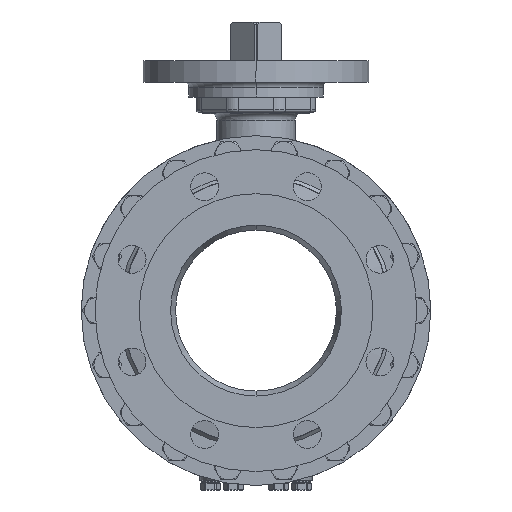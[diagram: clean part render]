
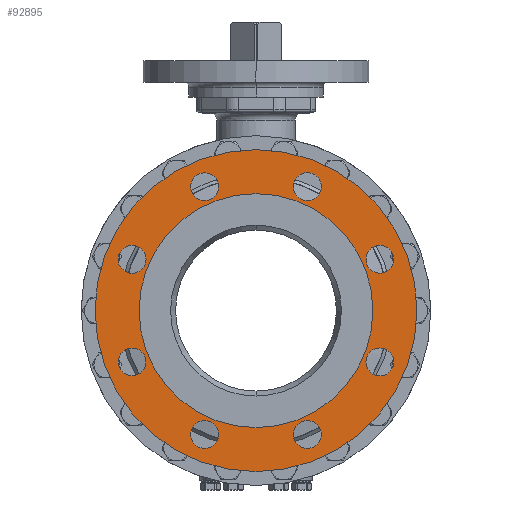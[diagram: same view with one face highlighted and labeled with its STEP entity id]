
A CAD part, left-side view. The second image highlights one B-rep face of the part: STEP entity #92895.
In plain terms, the highlighted planar face has unit normal (-1, 0, 0).
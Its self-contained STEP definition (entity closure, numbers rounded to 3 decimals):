
#13691=CARTESIAN_POINT('',(-194.,0.,0.));
#13692=DIRECTION('',(1.,0.,0.));
#13693=DIRECTION('',(0.,0.,1.));
#13694=AXIS2_PLACEMENT_3D('',#13691,#13692,#13693);
#13700=CARTESIAN_POINT('',(-194.,0.,0.));
#13701=DIRECTION('',(-1.,0.,0.));
#13702=DIRECTION('',(0.,0.,1.));
#13703=AXIS2_PLACEMENT_3D('',#13700,#13701,#13702);
#13709=CARTESIAN_POINT('',(-194.,0.,0.));
#13710=DIRECTION('',(-1.,0.,0.));
#13711=DIRECTION('',(0.,0.,1.));
#13712=AXIS2_PLACEMENT_3D('',#13709,#13710,#13711);
#13714=CARTESIAN_POINT('',(-194.,0.,0.));
#13715=DIRECTION('',(-1.,0.,0.));
#13716=DIRECTION('',(0.,0.,-1.));
#13717=AXIS2_PLACEMENT_3D('',#13714,#13715,#13716);
#13719=CARTESIAN_POINT('',(-194.,-47.835,115.485));
#13720=DIRECTION('',(-1.,0.,0.));
#13721=DIRECTION('',(0.,-1.,0.));
#13722=AXIS2_PLACEMENT_3D('',#13719,#13720,#13721);
#13724=CARTESIAN_POINT('',(-194.,-47.835,115.485));
#13725=DIRECTION('',(-1.,0.,0.));
#13726=DIRECTION('',(0.,1.,0.));
#13727=AXIS2_PLACEMENT_3D('',#13724,#13725,#13726);
#13729=CARTESIAN_POINT('',(-194.,47.835,115.485));
#13730=DIRECTION('',(-1.,0.,0.));
#13731=DIRECTION('',(0.,-0.707,0.707));
#13732=AXIS2_PLACEMENT_3D('',#13729,#13730,#13731);
#13734=CARTESIAN_POINT('',(-194.,47.835,115.485));
#13735=DIRECTION('',(-1.,0.,0.));
#13736=DIRECTION('',(0.,0.707,-0.707));
#13737=AXIS2_PLACEMENT_3D('',#13734,#13735,#13736);
#13739=CARTESIAN_POINT('',(-194.,115.485,47.835));
#13740=DIRECTION('',(-1.,0.,0.));
#13741=DIRECTION('',(0.,0.,1.));
#13742=AXIS2_PLACEMENT_3D('',#13739,#13740,#13741);
#13744=CARTESIAN_POINT('',(-194.,115.485,47.835));
#13745=DIRECTION('',(-1.,0.,0.));
#13746=DIRECTION('',(0.,0.,-1.));
#13747=AXIS2_PLACEMENT_3D('',#13744,#13745,#13746);
#13749=CARTESIAN_POINT('',(-194.,115.485,-47.835));
#13750=DIRECTION('',(-1.,0.,0.));
#13751=DIRECTION('',(0.,0.707,0.707));
#13752=AXIS2_PLACEMENT_3D('',#13749,#13750,#13751);
#13754=CARTESIAN_POINT('',(-194.,115.485,-47.835));
#13755=DIRECTION('',(-1.,0.,0.));
#13756=DIRECTION('',(0.,-0.707,-0.707));
#13757=AXIS2_PLACEMENT_3D('',#13754,#13755,#13756);
#13759=CARTESIAN_POINT('',(-194.,47.835,-115.485));
#13760=DIRECTION('',(-1.,0.,0.));
#13761=DIRECTION('',(0.,1.,0.));
#13762=AXIS2_PLACEMENT_3D('',#13759,#13760,#13761);
#13764=CARTESIAN_POINT('',(-194.,47.835,-115.485));
#13765=DIRECTION('',(-1.,0.,0.));
#13766=DIRECTION('',(0.,-1.,0.));
#13767=AXIS2_PLACEMENT_3D('',#13764,#13765,#13766);
#13769=CARTESIAN_POINT('',(-194.,-47.835,-115.485));
#13770=DIRECTION('',(-1.,0.,0.));
#13771=DIRECTION('',(0.,0.707,-0.707));
#13772=AXIS2_PLACEMENT_3D('',#13769,#13770,#13771);
#13774=CARTESIAN_POINT('',(-194.,-47.835,-115.485));
#13775=DIRECTION('',(-1.,0.,0.));
#13776=DIRECTION('',(0.,-0.707,0.707));
#13777=AXIS2_PLACEMENT_3D('',#13774,#13775,#13776);
#13779=CARTESIAN_POINT('',(-194.,-115.485,-47.835));
#13780=DIRECTION('',(-1.,0.,0.));
#13781=DIRECTION('',(0.,0.,-1.));
#13782=AXIS2_PLACEMENT_3D('',#13779,#13780,#13781);
#13784=CARTESIAN_POINT('',(-194.,-115.485,-47.835));
#13785=DIRECTION('',(-1.,0.,0.));
#13786=DIRECTION('',(0.,0.,1.));
#13787=AXIS2_PLACEMENT_3D('',#13784,#13785,#13786);
#13789=CARTESIAN_POINT('',(-194.,-115.485,47.835));
#13790=DIRECTION('',(-1.,0.,0.));
#13791=DIRECTION('',(0.,-0.707,-0.707));
#13792=AXIS2_PLACEMENT_3D('',#13789,#13790,#13791);
#13794=CARTESIAN_POINT('',(-194.,-115.485,47.835));
#13795=DIRECTION('',(-1.,0.,0.));
#13796=DIRECTION('',(0.,0.707,0.707));
#13797=AXIS2_PLACEMENT_3D('',#13794,#13795,#13796);
#57815=CARTESIAN_POINT('',(-194.,0.,109.));
#57816=CARTESIAN_POINT('',(-194.,0.,-109.));
#57817=VERTEX_POINT('',#57815);
#57818=VERTEX_POINT('',#57816);
#57819=CARTESIAN_POINT('',(-194.,0.,150.));
#57820=CARTESIAN_POINT('',(-194.,0.,-150.));
#57821=VERTEX_POINT('',#57819);
#57822=VERTEX_POINT('',#57820);
#57831=CARTESIAN_POINT('',(-194.,-60.835,115.485));
#57832=CARTESIAN_POINT('',(-194.,-34.835,115.485));
#57833=VERTEX_POINT('',#57831);
#57834=VERTEX_POINT('',#57832);
#57839=CARTESIAN_POINT('',(-194.,38.643,124.677));
#57840=CARTESIAN_POINT('',(-194.,57.028,106.293));
#57841=VERTEX_POINT('',#57839);
#57842=VERTEX_POINT('',#57840);
#57847=CARTESIAN_POINT('',(-194.,115.485,60.835));
#57848=CARTESIAN_POINT('',(-194.,115.485,34.835));
#57849=VERTEX_POINT('',#57847);
#57850=VERTEX_POINT('',#57848);
#57855=CARTESIAN_POINT('',(-194.,124.677,-38.643));
#57856=CARTESIAN_POINT('',(-194.,106.293,-57.028));
#57857=VERTEX_POINT('',#57855);
#57858=VERTEX_POINT('',#57856);
#57863=CARTESIAN_POINT('',(-194.,60.835,-115.485));
#57864=CARTESIAN_POINT('',(-194.,34.835,-115.485));
#57865=VERTEX_POINT('',#57863);
#57866=VERTEX_POINT('',#57864);
#57871=CARTESIAN_POINT('',(-194.,-38.643,-124.677));
#57872=CARTESIAN_POINT('',(-194.,-57.028,-106.293));
#57873=VERTEX_POINT('',#57871);
#57874=VERTEX_POINT('',#57872);
#57879=CARTESIAN_POINT('',(-194.,-115.485,-60.835));
#57880=CARTESIAN_POINT('',(-194.,-115.485,-34.835));
#57881=VERTEX_POINT('',#57879);
#57882=VERTEX_POINT('',#57880);
#57887=CARTESIAN_POINT('',(-194.,-124.677,38.643));
#57888=CARTESIAN_POINT('',(-194.,-106.293,57.028));
#57889=VERTEX_POINT('',#57887);
#57890=VERTEX_POINT('',#57888);
#92832=CARTESIAN_POINT('',(-194.,0.,0.));
#92833=DIRECTION('',(1.,0.,0.));
#92834=DIRECTION('',(0.,0.,1.));
#92835=AXIS2_PLACEMENT_3D('',#92832,#92833,#92834);
#92836=PLANE('',#92835);
#92838=ORIENTED_EDGE('',*,*,#92837,.F.);
#92840=ORIENTED_EDGE('',*,*,#92839,.F.);
#92841=EDGE_LOOP('',(#92838,#92840));
#92842=FACE_OUTER_BOUND('',#92841,.F.);
#92843=ORIENTED_EDGE('',*,*,#92826,.T.);
#92844=ORIENTED_EDGE('',*,*,#92812,.F.);
#92845=EDGE_LOOP('',(#92843,#92844));
#92846=FACE_BOUND('',#92845,.F.);
#92848=ORIENTED_EDGE('',*,*,#92847,.T.);
#92850=ORIENTED_EDGE('',*,*,#92849,.T.);
#92851=EDGE_LOOP('',(#92848,#92850));
#92852=FACE_BOUND('',#92851,.F.);
#92854=ORIENTED_EDGE('',*,*,#92853,.T.);
#92856=ORIENTED_EDGE('',*,*,#92855,.T.);
#92857=EDGE_LOOP('',(#92854,#92856));
#92858=FACE_BOUND('',#92857,.F.);
#92860=ORIENTED_EDGE('',*,*,#92859,.T.);
#92862=ORIENTED_EDGE('',*,*,#92861,.T.);
#92863=EDGE_LOOP('',(#92860,#92862));
#92864=FACE_BOUND('',#92863,.F.);
#92866=ORIENTED_EDGE('',*,*,#92865,.T.);
#92868=ORIENTED_EDGE('',*,*,#92867,.T.);
#92869=EDGE_LOOP('',(#92866,#92868));
#92870=FACE_BOUND('',#92869,.F.);
#92872=ORIENTED_EDGE('',*,*,#92871,.T.);
#92874=ORIENTED_EDGE('',*,*,#92873,.T.);
#92875=EDGE_LOOP('',(#92872,#92874));
#92876=FACE_BOUND('',#92875,.F.);
#92878=ORIENTED_EDGE('',*,*,#92877,.T.);
#92880=ORIENTED_EDGE('',*,*,#92879,.T.);
#92881=EDGE_LOOP('',(#92878,#92880));
#92882=FACE_BOUND('',#92881,.F.);
#92884=ORIENTED_EDGE('',*,*,#92883,.T.);
#92886=ORIENTED_EDGE('',*,*,#92885,.T.);
#92887=EDGE_LOOP('',(#92884,#92886));
#92888=FACE_BOUND('',#92887,.F.);
#92890=ORIENTED_EDGE('',*,*,#92889,.T.);
#92892=ORIENTED_EDGE('',*,*,#92891,.T.);
#92893=EDGE_LOOP('',(#92890,#92892));
#92894=FACE_BOUND('',#92893,.F.);
#92895=ADVANCED_FACE('',(#92842,#92846,#92852,#92858,#92864,#92870,#92876,
#92882,#92888,#92894),#92836,.F.);
#13695=CIRCLE('',#13694,109.);
#13704=CIRCLE('',#13703,109.);
#13713=CIRCLE('',#13712,150.);
#13718=CIRCLE('',#13717,150.);
#13723=CIRCLE('',#13722,13.);
#13728=CIRCLE('',#13727,13.);
#13733=CIRCLE('',#13732,13.);
#13738=CIRCLE('',#13737,13.);
#13743=CIRCLE('',#13742,13.);
#13748=CIRCLE('',#13747,13.);
#13753=CIRCLE('',#13752,13.);
#13758=CIRCLE('',#13757,13.);
#13763=CIRCLE('',#13762,13.);
#13768=CIRCLE('',#13767,13.);
#13773=CIRCLE('',#13772,13.);
#13778=CIRCLE('',#13777,13.);
#13783=CIRCLE('',#13782,13.);
#13788=CIRCLE('',#13787,13.);
#13793=CIRCLE('',#13792,13.);
#13798=CIRCLE('',#13797,13.);
#92812=EDGE_CURVE('',#57817,#57818,#13695,.T.);
#92826=EDGE_CURVE('',#57817,#57818,#13704,.T.);
#92837=EDGE_CURVE('',#57821,#57822,#13713,.T.);
#92839=EDGE_CURVE('',#57822,#57821,#13718,.T.);
#92847=EDGE_CURVE('',#57833,#57834,#13723,.T.);
#92849=EDGE_CURVE('',#57834,#57833,#13728,.T.);
#92853=EDGE_CURVE('',#57841,#57842,#13733,.T.);
#92855=EDGE_CURVE('',#57842,#57841,#13738,.T.);
#92859=EDGE_CURVE('',#57849,#57850,#13743,.T.);
#92861=EDGE_CURVE('',#57850,#57849,#13748,.T.);
#92865=EDGE_CURVE('',#57857,#57858,#13753,.T.);
#92867=EDGE_CURVE('',#57858,#57857,#13758,.T.);
#92871=EDGE_CURVE('',#57865,#57866,#13763,.T.);
#92873=EDGE_CURVE('',#57866,#57865,#13768,.T.);
#92877=EDGE_CURVE('',#57873,#57874,#13773,.T.);
#92879=EDGE_CURVE('',#57874,#57873,#13778,.T.);
#92883=EDGE_CURVE('',#57881,#57882,#13783,.T.);
#92885=EDGE_CURVE('',#57882,#57881,#13788,.T.);
#92889=EDGE_CURVE('',#57889,#57890,#13793,.T.);
#92891=EDGE_CURVE('',#57890,#57889,#13798,.T.);
